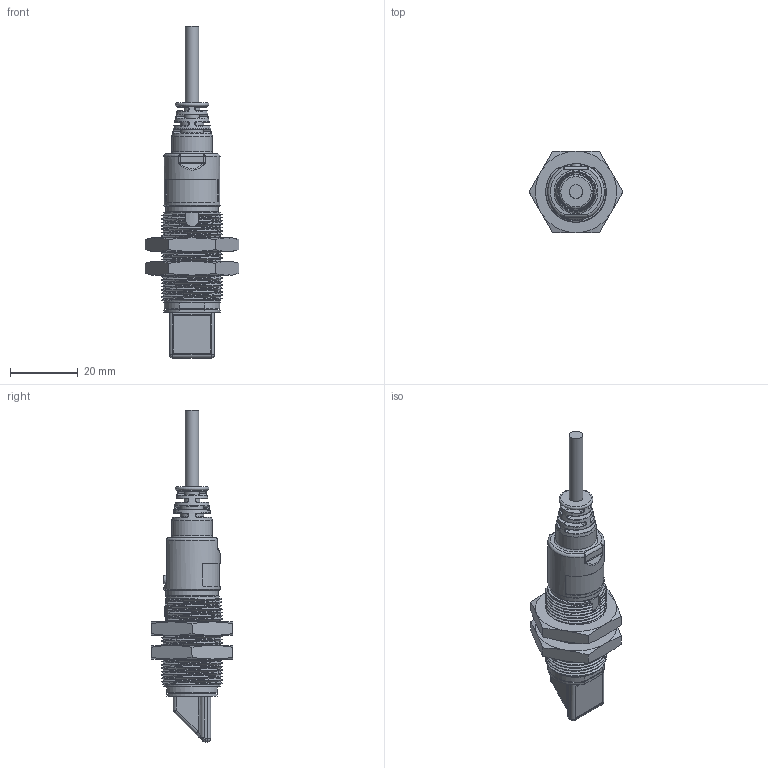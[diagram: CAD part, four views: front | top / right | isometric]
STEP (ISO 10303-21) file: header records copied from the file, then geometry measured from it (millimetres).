
FILE_DESCRIPTION(/* description */ (''),/* implementation_level */ '2;1');
FILE_NAME(/* name */ '3DCAD_BR328_W.stp',/* time_stamp */ '2013-11-19T15:06:23+01:00',/* author */ (''),/* organization */ (''),/* preprocessor_version */ 'ST-DEVELOPER v15',/* originating_system */ 'SIEMENS PLM Software NX 8.5',/* authorisation */ '');
FILE_SCHEMA (('AUTOMOTIVE_DESIGN { 1 0 10303 214 3 1 1 1 }'));
Products named in the file (1): 005033_00
Bounding box: 27.71 x 24 x 98.1 mm (x, y, z)
Volume: 15251 mm3; surface area: 6508.8 mm2
Topology: 1 solids, 1 shells, 547 faces, 1350 edges, 814 vertices
Faces by surface type: cylinder 181, bspline 147, plane 144, cone 31, torus 30, sphere 14
Full cylindrical faces by diameter (mm): 3.4 x1, 4 x3, 12 x1, 15.5 x1, 16.65 x1, 16.7 x1
Entity records: 76145 total; most frequent: CARTESIAN_POINT 61927, ORIENTED_EDGE 2600, DIRECTION 2077, EDGE_CURVE 1300, AXIS2_PLACEMENT_3D 831, VERTEX_POINT 802, EDGE_LOOP 593, ADVANCED_FACE 547
